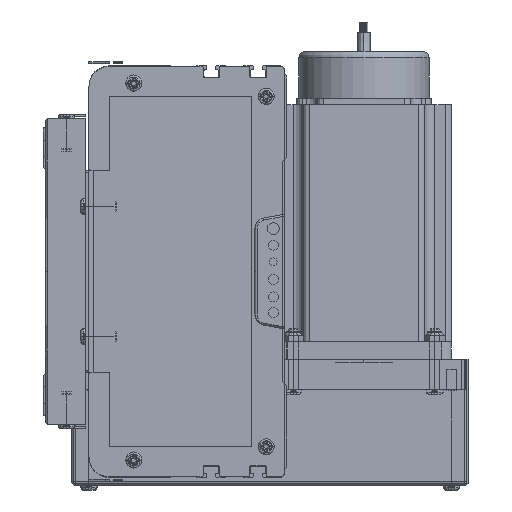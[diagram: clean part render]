
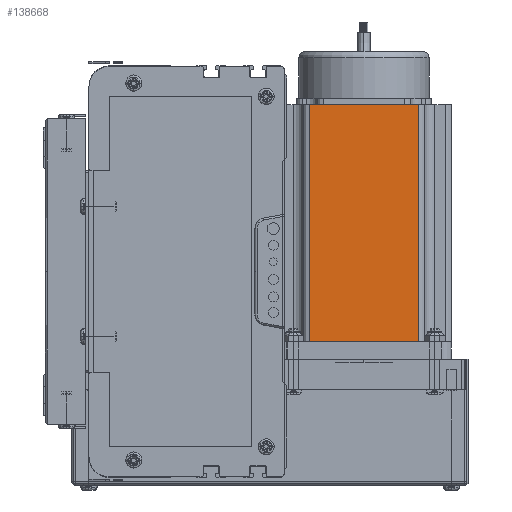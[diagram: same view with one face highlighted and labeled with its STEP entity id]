
A CAD part, left-side view. The second image highlights one B-rep face of the part: STEP entity #138668.
In plain terms, the highlighted planar face has unit normal (-1, 0, 0) as drawn and (0, -1, 0) by its records, which use the part's own axes.
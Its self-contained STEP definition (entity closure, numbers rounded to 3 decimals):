
#99737 = LINE ( 'NONE', #99899, #99895 ) ;
#99857 = DIRECTION ( 'NONE',  ( 1., 0., 0. ) ) ;
#99859 = VECTOR ( 'NONE', #99857, 1000. ) ;
#99861 = CARTESIAN_POINT ( 'NONE',  ( 0., 0., 116.5 ) ) ;
#99870 = DIRECTION ( 'NONE',  ( 0., 0., -1. ) ) ;
#99873 = VECTOR ( 'NONE', #99870, 1000. ) ;
#99876 = CARTESIAN_POINT ( 'NONE',  ( 16.16, 0., 116.5 ) ) ;
#99878 = LINE ( 'NONE', #99861, #99859 ) ;
#99893 = DIRECTION ( 'NONE',  ( 1., 0., 0. ) ) ;
#99895 = VECTOR ( 'NONE', #99893, 1000. ) ;
#99899 = CARTESIAN_POINT ( 'NONE',  ( 0., 0., 0. ) ) ;
#99936 = LINE ( 'NONE', #99876, #99873 ) ;
#102146 = DIRECTION ( 'NONE',  ( 0., 1., 0. ) ) ;
#102149 = FACE_OUTER_BOUND ( 'NONE', #138116, .T. ) ;
#102155 = PLANE ( 'NONE',  #102255 ) ;
#102237 = DIRECTION ( 'NONE',  ( 0., 0., 1. ) ) ;
#102255 = AXIS2_PLACEMENT_3D ( 'NONE', #102290, #102146, #102237 ) ;
#102290 = CARTESIAN_POINT ( 'NONE',  ( 0., 0., 116.5 ) ) ;
#102308 = CARTESIAN_POINT ( 'NONE',  ( 16.16, 0., 116.5 ) ) ;
#102367 = CARTESIAN_POINT ( 'NONE',  ( 69.74, 0., 116.5 ) ) ;
#102437 = DIRECTION ( 'NONE',  ( 0., 0., 1. ) ) ;
#102439 = VECTOR ( 'NONE', #102437, 1000. ) ;
#102444 = CARTESIAN_POINT ( 'NONE',  ( 69.74, 0., 116.5 ) ) ;
#102445 = LINE ( 'NONE', #102444, #102439 ) ;
#102699 = CARTESIAN_POINT ( 'NONE',  ( 16.16, 0., 0. ) ) ;
#102959 = CARTESIAN_POINT ( 'NONE',  ( 69.74, 0., 0. ) ) ;
#138116 = EDGE_LOOP ( 'NONE', ( #138802, #138701, #138591, #138690 ) ) ;
#138587 = EDGE_CURVE ( 'NONE', #138749, #138785, #99737, .T. ) ;
#138591 = ORIENTED_EDGE ( 'NONE', *, *, #138595, .F. ) ;
#138592 = EDGE_CURVE ( 'NONE', #138692, #138749, #99936, .T. ) ;
#138595 = EDGE_CURVE ( 'NONE', #138692, #138700, #99878, .T. ) ;
#138668 = ADVANCED_FACE ( 'NONE', ( #102149 ), #102155, .F. ) ;
#138690 = ORIENTED_EDGE ( 'NONE', *, *, #138592, .T. ) ;
#138692 = VERTEX_POINT ( 'NONE', #102308 ) ;
#138699 = EDGE_CURVE ( 'NONE', #138785, #138700, #102445, .T. ) ;
#138700 = VERTEX_POINT ( 'NONE', #102367 ) ;
#138701 = ORIENTED_EDGE ( 'NONE', *, *, #138699, .T. ) ;
#138749 = VERTEX_POINT ( 'NONE', #102699 ) ;
#138785 = VERTEX_POINT ( 'NONE', #102959 ) ;
#138802 = ORIENTED_EDGE ( 'NONE', *, *, #138587, .T. ) ;
